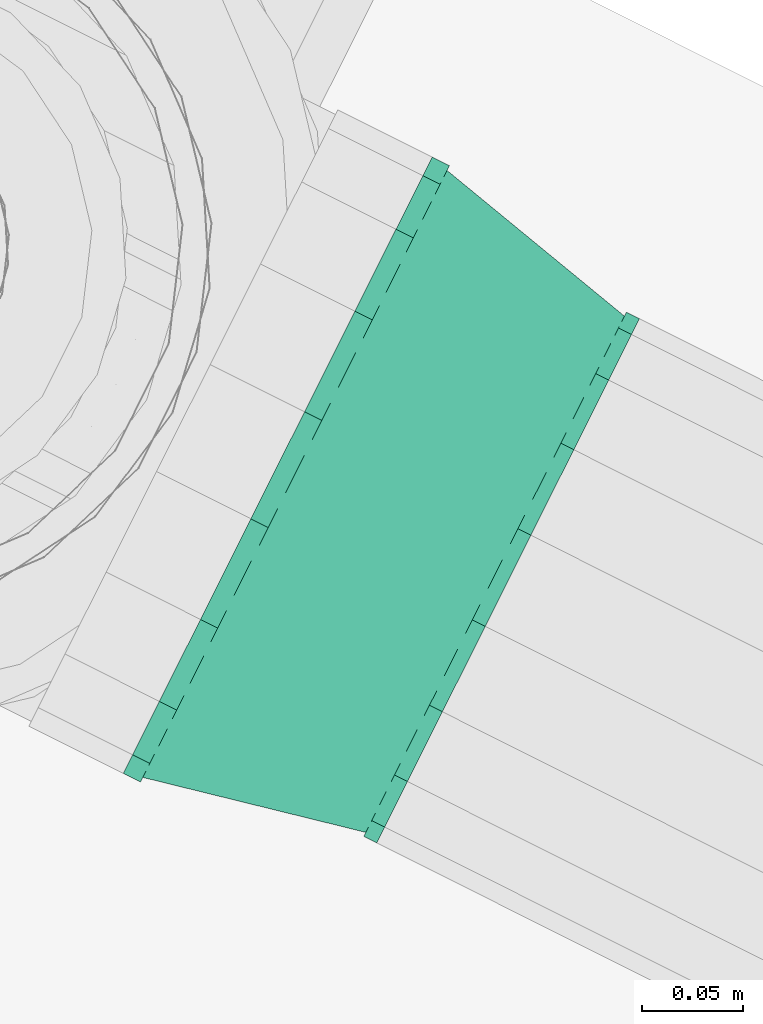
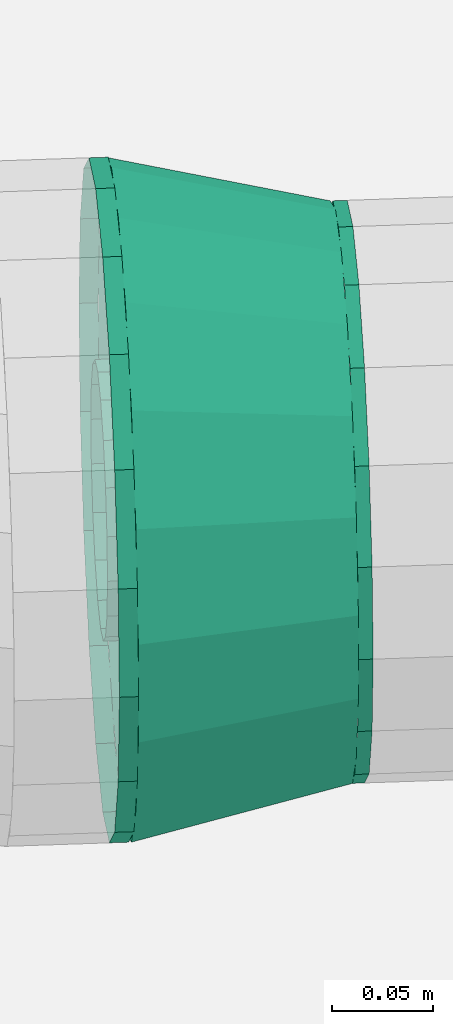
# One storey, part 109 of 152: 1 flow fitting.
"""IFC2X3 building model written with IfcOpenShell, lengths in metres."""

from ifc_helpers import new_model, si_unit, derived_unit, direction, frame, origin, place, context, subcontext, project, spatial, face_set, surface_model, source, transform, mapped, material, type_object, type_shapes, element, save


model = new_model("IFC2X3")

# Units and contexts
model_context = context("Model", 3, precision=5.2338327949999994e-05, world=origin(), true_north=direction((0.0, 1.0)))
body_context = subcontext(model_context, "Body", "Model", "MODEL_VIEW")
ifc_project = project(units=[si_unit("LENGTHUNIT", "METRE"), si_unit("AREAUNIT", "SQUARE_METRE"), si_unit("VOLUMEUNIT", "CUBIC_METRE"), si_unit("MASSUNIT", "GRAM", prefix="KILO"), si_unit("PLANEANGLEUNIT", "RADIAN"), derived_unit("THERMALTRANSMITTANCEUNIT", [(si_unit("MASSUNIT", "GRAM", prefix="KILO"), 1), (si_unit("THERMODYNAMICTEMPERATUREUNIT", "KELVIN"), -1), (si_unit("TIMEUNIT", "SECOND"), -3)])], contexts=[model_context])

# Site, building, storey
site_placement = place(None, frame((0.0, 0.0, 0.0), z_axis=(0.0, 0.0, 1.0), x_axis=(0.8939966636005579, -0.4480736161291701, 0.0)))
site = spatial("IfcSite", under=ifc_project, at=site_placement, Name="Default", CompositionType="ELEMENT")
building_placement = place(site_placement, origin())
building = spatial("IfcBuilding", under=site, at=building_placement, CompositionType="ELEMENT")
storey_placement = place(building_placement, frame((0.0, 0.0, 2.7499999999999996)))
storey = spatial("IfcBuildingStorey", under=building, at=storey_placement, Name="1. Obergeschoss", CompositionType="ELEMENT", Elevation=2.7499999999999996)

# Flow fitting
ifc_material = material(Name="IfcSurfaceStyle #9317")
distribution_element_type = type_object("IfcDistributionElementType", Name="Übergangsstück 237047:Übergangsstück 237047", material=ifc_material)
shared_shape = source(origin(), body_context, "Body", "SurfaceModel", [
    surface_model("IfcFaceBasedSurfaceModel", [(9.994770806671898, 5.81233762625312, 3.325154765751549), (9.994770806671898, 5.815018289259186, 3.3403575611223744), (9.987621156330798, 5.815018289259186, 3.3403575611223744), (9.987621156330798, 5.81233762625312, 3.325154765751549), (9.994770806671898, 5.82273695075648, 3.353726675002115), (9.987621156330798, 5.82273695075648, 3.353726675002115), (9.994770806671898, 5.834562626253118, 3.363649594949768), (9.987621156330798, 5.834562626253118, 3.363649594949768), (9.994770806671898, 5.849068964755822, 3.368929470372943), (9.987621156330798, 5.849068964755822, 3.368929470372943), (9.994770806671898, 5.864506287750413, 3.368929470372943), (9.987621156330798, 5.864506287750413, 3.368929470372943), (9.994770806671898, 5.879012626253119, 3.3636495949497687), (9.987621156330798, 5.879012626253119, 3.3636495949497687), (9.994770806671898, 5.890838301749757, 3.353726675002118), (9.987621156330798, 5.890838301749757, 3.353726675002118), (9.994770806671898, 5.898556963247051, 3.340357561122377), (9.987621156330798, 5.898556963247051, 3.340357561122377), (9.994770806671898, 5.9012376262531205, 3.3251547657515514), (9.987621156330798, 5.9012376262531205, 3.3251547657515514), (9.994770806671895, 5.898556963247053, 3.3099519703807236), (9.987621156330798, 5.898556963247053, 3.309951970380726), (9.994770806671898, 5.890838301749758, 3.2965828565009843), (9.987621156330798, 5.89083830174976, 3.296582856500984), (9.994770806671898, 5.879012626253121, 3.2866599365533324), (9.987621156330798, 5.879012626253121, 3.2866599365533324), (9.994770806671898, 5.864506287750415, 3.2813800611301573), (9.987621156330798, 5.864506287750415, 3.2813800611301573), (9.994770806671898, 5.849068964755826, 3.281380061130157), (9.987621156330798, 5.849068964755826, 3.281380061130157), (9.994770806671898, 5.834562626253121, 3.2866599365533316), (9.987621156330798, 5.834562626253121, 3.2866599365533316), (9.994770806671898, 5.8227369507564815, 3.296582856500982), (9.987621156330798, 5.8227369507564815, 3.296582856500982), (9.994770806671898, 5.815018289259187, 3.3099519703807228), (9.987621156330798, 5.815018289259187, 3.3099519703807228), (9.987621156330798, 5.856787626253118, 3.36960476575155), (9.987621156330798, 5.871990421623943, 3.3669241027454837), (9.877299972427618, 5.880677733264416, 3.390792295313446), (9.877299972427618, 5.856787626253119, 3.3950047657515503), (9.987621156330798, 5.885359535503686, 3.3592054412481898), (9.877299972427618, 5.901686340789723, 3.378662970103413), (9.987621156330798, 5.895282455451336, 3.347379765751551), (9.877299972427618, 5.917279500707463, 3.3600797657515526), (9.987621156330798, 5.9005623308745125, 3.3328734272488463), (9.877299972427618, 5.925576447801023, 3.3372840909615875), (9.987621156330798, 5.900562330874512, 3.3174361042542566), (9.877299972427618, 5.925576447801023, 3.3130254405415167), (9.987621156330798, 5.895282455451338, 3.3029297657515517), (9.877299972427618, 5.9172795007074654, 3.290229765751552), (9.987621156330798, 5.885359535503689, 3.2911040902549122), (9.877299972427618, 5.901686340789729, 3.27164656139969), (9.987621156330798, 5.871990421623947, 3.283385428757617), (9.877299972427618, 5.880677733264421, 3.2595172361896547), (9.987621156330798, 5.856787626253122, 3.2807047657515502), (9.877299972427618, 5.856787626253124, 3.25530476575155), (9.987621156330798, 5.841584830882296, 3.2833854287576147), (9.877299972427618, 5.8328975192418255, 3.2595172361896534), (9.987621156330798, 5.8282157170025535, 3.29110409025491), (9.877299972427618, 5.811888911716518, 3.2716465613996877), (9.987621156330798, 5.818292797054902, 3.3029297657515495), (9.877299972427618, 5.79629575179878, 3.290229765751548), (9.987621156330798, 5.813012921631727, 3.317436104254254), (9.877299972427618, 5.787998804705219, 3.3130254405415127), (9.987621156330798, 5.813012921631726, 3.3328734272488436), (9.877299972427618, 5.787998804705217, 3.3372840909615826), (9.987621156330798, 5.818292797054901, 3.347379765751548), (9.877299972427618, 5.796295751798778, 3.3600797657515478), (9.987621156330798, 5.828215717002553, 3.359205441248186), (9.877299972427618, 5.8118889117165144, 3.3786629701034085), (9.987621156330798, 5.841584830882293, 3.366924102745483), (9.877299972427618, 5.83289751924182, 3.390792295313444), (9.87729997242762, 5.7869376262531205, 3.325154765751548), (9.87729997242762, 5.791150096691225, 3.349044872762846), (9.8677708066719, 5.791150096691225, 3.349044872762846), (9.8677708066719, 5.7869376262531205, 3.325154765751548), (9.87729997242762, 5.803279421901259, 3.370053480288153), (9.8677708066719, 5.803279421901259, 3.370053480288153), (9.87729997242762, 5.821862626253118, 3.385646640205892), (9.8677708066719, 5.821862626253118, 3.385646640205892), (9.87729997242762, 5.844658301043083, 3.393943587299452), (9.8677708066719, 5.844658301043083, 3.393943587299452), (9.87729997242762, 5.868916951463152, 3.3939435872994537), (9.8677708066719, 5.868916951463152, 3.3939435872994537), (9.87729997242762, 5.891712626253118, 3.3856466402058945), (9.8677708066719, 5.891712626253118, 3.3856466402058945), (9.87729997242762, 5.910295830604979, 3.3700534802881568), (9.8677708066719, 5.910295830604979, 3.3700534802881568), (9.87729997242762, 5.922425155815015, 3.3490448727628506), (9.8677708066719, 5.922425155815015, 3.3490448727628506), (9.87729997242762, 5.92663762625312, 3.325154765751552), (9.8677708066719, 5.92663762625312, 3.325154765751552), (9.87729997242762, 5.922425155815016, 3.301264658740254), (9.8677708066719, 5.922425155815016, 3.301264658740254), (9.87729997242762, 5.910295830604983, 3.2802560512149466), (9.8677708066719, 5.910295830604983, 3.2802560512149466), (9.87729997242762, 5.891712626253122, 3.2646628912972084), (9.8677708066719, 5.891712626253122, 3.2646628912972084), (9.87729997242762, 5.868916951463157, 3.256365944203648), (9.8677708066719, 5.868916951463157, 3.256365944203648), (9.87729997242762, 5.844658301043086, 3.256365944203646), (9.8677708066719, 5.844658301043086, 3.256365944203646), (9.87729997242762, 5.821862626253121, 3.2646628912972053), (9.8677708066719, 5.821862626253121, 3.2646628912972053), (9.87729997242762, 5.803279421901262, 3.2802560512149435), (9.8677708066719, 5.803279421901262, 3.2802560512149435), (9.87729997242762, 5.791150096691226, 3.301264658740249), (9.8677708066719, 5.791150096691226, 3.301264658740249), (9.994770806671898, 5.71233762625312, 3.3251547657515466), (9.994770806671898, 5.721049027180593, 3.374559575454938), (9.987621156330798, 5.721049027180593, 3.374559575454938), (9.987621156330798, 5.71233762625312, 3.3251547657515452), (9.994770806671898, 5.746132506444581, 3.418005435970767), (9.987621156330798, 5.746132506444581, 3.418005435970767), (9.994770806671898, 5.784562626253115, 3.4502521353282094), (9.987621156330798, 5.784562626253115, 3.4502521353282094), (9.994770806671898, 5.831704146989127, 3.4674102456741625), (9.987621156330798, 5.831704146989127, 3.4674102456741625), (9.994770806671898, 5.881871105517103, 3.4674102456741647), (9.987621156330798, 5.881871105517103, 3.4674102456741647), (9.994770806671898, 5.929012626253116, 3.450252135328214), (9.987621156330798, 5.929012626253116, 3.450252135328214), (9.994770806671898, 5.967442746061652, 3.4180054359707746), (9.987621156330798, 5.967442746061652, 3.4180054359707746), (9.994770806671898, 5.992526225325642, 3.3745595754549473), (9.987621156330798, 5.992526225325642, 3.3745595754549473), (9.994770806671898, 6.001237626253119, 3.3251547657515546), (9.987621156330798, 6.001237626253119, 3.3251547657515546), (9.994770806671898, 5.992526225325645, 3.275749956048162), (9.987621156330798, 5.992526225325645, 3.275749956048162), (9.994770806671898, 5.967442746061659, 3.2323040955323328), (9.987621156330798, 5.967442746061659, 3.2323040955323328), (9.994770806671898, 5.929012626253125, 3.200057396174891), (9.987621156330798, 5.929012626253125, 3.200057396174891), (9.994770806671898, 5.881871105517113, 3.182899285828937), (9.987621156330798, 5.881871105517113, 3.182899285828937), (9.994770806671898, 5.831704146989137, 3.182899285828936), (9.987621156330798, 5.831704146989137, 3.182899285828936), (9.994770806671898, 5.784562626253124, 3.200057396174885), (9.987621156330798, 5.784562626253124, 3.200057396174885), (9.994770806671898, 5.746132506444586, 3.2323040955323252), (9.987621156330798, 5.746132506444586, 3.2323040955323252), (9.994770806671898, 5.721049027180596, 3.2757499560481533), (9.987621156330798, 5.721049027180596, 3.2757499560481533), (9.987621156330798, 5.856787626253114, 3.46960476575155), (9.987621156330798, 5.906192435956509, 3.460893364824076), (9.877299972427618, 5.914879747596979, 3.4847615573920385), (9.877299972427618, 5.856787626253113, 3.4950047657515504), (9.987621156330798, 5.949638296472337, 3.435809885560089), (9.877299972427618, 5.965965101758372, 3.455267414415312), (9.987621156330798, 5.981884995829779, 3.3973797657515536), (9.877299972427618, 6.003882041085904, 3.4100797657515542), (9.987621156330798, 5.999043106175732, 3.3502382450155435), (9.877299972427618, 6.024057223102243, 3.3546489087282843), (9.987621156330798, 5.999043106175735, 3.300071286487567), (9.877299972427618, 6.024057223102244, 3.295660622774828), (9.987621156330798, 5.981884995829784, 3.252929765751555), (9.877299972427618, 6.00388204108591, 3.2402297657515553), (9.987621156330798, 5.949638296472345, 3.2144996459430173), (9.877299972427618, 5.965965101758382, 3.1950421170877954), (9.987621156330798, 5.906192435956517, 3.1894161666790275), (9.877299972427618, 5.9148797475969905, 3.1655479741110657), (9.987621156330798, 5.8567876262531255, 3.18070476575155), (9.877299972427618, 5.856787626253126, 3.1553047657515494), (9.987621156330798, 5.807382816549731, 3.189416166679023), (9.877299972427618, 5.79869550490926, 3.1655479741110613), (9.987621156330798, 5.763936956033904, 3.2144996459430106), (9.877299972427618, 5.747610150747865, 3.195042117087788), (9.987621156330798, 5.731690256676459, 3.2529297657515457), (9.877299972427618, 5.709693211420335, 3.2402297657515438), (9.987621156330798, 5.714532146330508, 3.300071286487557), (9.877299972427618, 5.689518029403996, 3.2956606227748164), (9.987621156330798, 5.714532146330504, 3.3502382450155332), (9.877299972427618, 5.689518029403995, 3.354648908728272), (9.987621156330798, 5.731690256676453, 3.397379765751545), (9.877299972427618, 5.70969321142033, 3.4100797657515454), (9.987621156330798, 5.763936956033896, 3.4358098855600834), (9.877299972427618, 5.747610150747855, 3.4552674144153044), (9.987621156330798, 5.8073828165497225, 3.4608933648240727), (9.877299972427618, 5.79869550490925, 3.484761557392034), (9.87729997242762, 5.686937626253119, 3.325154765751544), (9.87729997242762, 5.697180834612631, 3.3832468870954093), (9.8677708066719, 5.697180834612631, 3.3832468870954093), (9.8677708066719, 5.686937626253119, 3.325154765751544), (9.87729997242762, 5.726674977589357, 3.4343322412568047), (9.8677708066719, 5.726674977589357, 3.4343322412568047), (9.87729997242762, 5.771862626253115, 3.4722491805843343), (9.8677708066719, 5.771862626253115, 3.4722491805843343), (9.87729997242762, 5.827293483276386, 3.4924243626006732), (9.8677708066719, 5.827293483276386, 3.4924243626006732), (9.87729997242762, 5.886281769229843, 3.4924243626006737), (9.8677708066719, 5.886281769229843, 3.4924243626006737), (9.87729997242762, 5.941712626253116, 3.4722491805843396), (9.8677708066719, 5.941712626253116, 3.4722491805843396), (9.87729997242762, 5.986900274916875, 3.4343322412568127), (9.8677708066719, 5.986900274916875, 3.4343322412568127), (9.87729997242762, 6.016394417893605, 3.38324688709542), (9.8677708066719, 6.016394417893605, 3.38324688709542), (9.87729997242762, 6.026637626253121, 3.325154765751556), (9.8677708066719, 6.026637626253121, 3.325154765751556), (9.87729997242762, 6.016394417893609, 3.2670626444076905), (9.8677708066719, 6.016394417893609, 3.2670626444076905), (9.87729997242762, 5.986900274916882, 3.2159772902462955), (9.8677708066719, 5.986900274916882, 3.2159772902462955), (9.87729997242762, 5.941712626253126, 3.178060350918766), (9.8677708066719, 5.941712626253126, 3.178060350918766), (9.87729997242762, 5.8862817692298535, 3.157885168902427), (9.8677708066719, 5.8862817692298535, 3.157885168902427), (9.87729997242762, 5.827293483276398, 3.157885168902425), (9.8677708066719, 5.827293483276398, 3.157885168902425), (9.87729997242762, 5.771862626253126, 3.17806035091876), (9.8677708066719, 5.771862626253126, 3.17806035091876), (9.87729997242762, 5.726674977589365, 3.215977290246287), (9.8677708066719, 5.726674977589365, 3.215977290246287), (9.87729997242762, 5.697180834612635, 3.2670626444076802), (9.8677708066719, 5.697180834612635, 3.2670626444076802)], [face_set([[[0, 1, 2, 3]], [[1, 4, 5, 2]], [[4, 6, 7, 5]], [[6, 8, 9, 7]], [[8, 10, 11, 9]], [[10, 12, 13, 11]], [[12, 14, 15, 13]], [[14, 16, 17, 15]], [[16, 18, 19, 17]], [[18, 20, 21, 19]], [[20, 22, 23, 21]], [[22, 24, 25, 23]], [[24, 26, 27, 25]], [[26, 28, 29, 27]], [[28, 30, 31, 29]], [[30, 32, 33, 31]], [[32, 34, 35, 33]], [[34, 0, 3, 35]], [[36, 37, 38, 39]], [[37, 40, 41, 38]], [[40, 42, 43, 41]], [[42, 44, 45, 43]], [[44, 46, 47, 45]], [[46, 48, 49, 47]], [[48, 50, 51, 49]], [[50, 52, 53, 51]], [[52, 54, 55, 53]], [[54, 56, 57, 55]], [[56, 58, 59, 57]], [[58, 60, 61, 59]], [[60, 62, 63, 61]], [[62, 64, 65, 63]], [[64, 66, 67, 65]], [[66, 68, 69, 67]], [[68, 70, 71, 69]], [[70, 36, 39, 71]], [[72, 73, 74, 75]], [[73, 76, 77, 74]], [[76, 78, 79, 77]], [[78, 80, 81, 79]], [[80, 82, 83, 81]], [[82, 84, 85, 83]], [[84, 86, 87, 85]], [[86, 88, 89, 87]], [[88, 90, 91, 89]], [[90, 92, 93, 91]], [[92, 94, 95, 93]], [[94, 96, 97, 95]], [[96, 98, 99, 97]], [[98, 100, 101, 99]], [[100, 102, 103, 101]], [[102, 104, 105, 103]], [[104, 106, 107, 105]], [[106, 72, 75, 107]], [[108, 109, 110, 111]], [[109, 112, 113, 110]], [[112, 114, 115, 113]], [[114, 116, 117, 115]], [[116, 118, 119, 117]], [[118, 120, 121, 119]], [[120, 122, 123, 121]], [[122, 124, 125, 123]], [[124, 126, 127, 125]], [[126, 128, 129, 127]], [[128, 130, 131, 129]], [[130, 132, 133, 131]], [[132, 134, 135, 133]], [[134, 136, 137, 135]], [[136, 138, 139, 137]], [[138, 140, 141, 139]], [[140, 142, 143, 141]], [[142, 108, 111, 143]], [[144, 145, 146, 147]], [[145, 148, 149, 146]], [[148, 150, 151, 149]], [[150, 152, 153, 151]], [[152, 154, 155, 153]], [[154, 156, 157, 155]], [[156, 158, 159, 157]], [[158, 160, 161, 159]], [[160, 162, 163, 161]], [[162, 164, 165, 163]], [[164, 166, 167, 165]], [[166, 168, 169, 167]], [[168, 170, 171, 169]], [[170, 172, 173, 171]], [[172, 174, 175, 173]], [[174, 176, 177, 175]], [[176, 178, 179, 177]], [[178, 144, 147, 179]], [[180, 181, 182, 183]], [[181, 184, 185, 182]], [[184, 186, 187, 185]], [[186, 188, 189, 187]], [[188, 190, 191, 189]], [[190, 192, 193, 191]], [[192, 194, 195, 193]], [[194, 196, 197, 195]], [[196, 198, 199, 197]], [[198, 200, 201, 199]], [[200, 202, 203, 201]], [[202, 204, 205, 203]], [[204, 206, 207, 205]], [[206, 208, 209, 207]], [[208, 210, 211, 209]], [[210, 212, 213, 211]], [[212, 214, 215, 213]], [[214, 180, 183, 215]]])]),
])
type_shapes(distribution_element_type, [shared_shape])
flow_fitting_placement = place(storey_placement, frame((0.0, 0.0, -2.7499999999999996)))
element("IfcFlowFitting", 1, at=flow_fitting_placement, inside=storey, type_object=distribution_element_type, material=ifc_material, Name="Übergangsstück", ObjectType="Übergangsstück", context=body_context, shape_type="MappedRepresentation", body=[
    mapped(shared_shape, transform((0.0, 0.0, 0.0), scale=1.0)),
])

save(model, "model.ifc")
